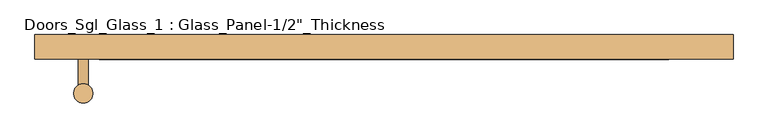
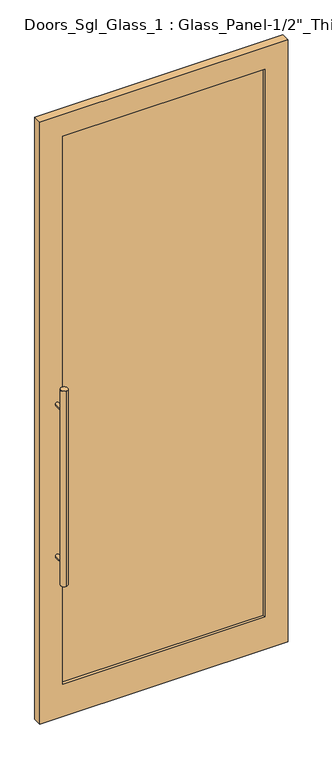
"""IFC4 building model written with IfcOpenShell, lengths in millimetres: door geometry."""

from ifc_helpers import new_model, si_unit, point, frame, frame_2d, origin, place, context, project, spatial, polyline, circle_curve, trimmed, segment, composite_curve, outline, extrude, source, transform, mapped, element, save


def door_567a0bab(model_context):
    return source(origin(), model_context, "Body", "SweptSolid", [
        extrude(outline(composite_curve([segment(trimmed(circle_curve(frame_2d((-466.370352, -116.0)), 15.0), [point((-466.370352, -101.0))], [point((-466.370352, -131.0))], False, "CARTESIAN"), True, "CONTINUOUS"), segment(trimmed(circle_curve(frame_2d((-466.370352, -116.0)), 15.0), [point((-466.370352, -131.0))], [point((-466.370352, -101.0))], False, "CARTESIAN"), True, "CONTINUOUS")], self_intersect=False)), frame((0.0, 0.0, 650.0), z_axis=(0.0, 0.0, 1.0), x_axis=(1.0, 0.0, 0.0)), (0.0, 0.0, 1.0), 900.0),
        extrude(outline(composite_curve([segment(trimmed(circle_curve(frame_2d((1450.0, -466.370352)), 8.0), [point((1450.0, -458.370352))], [point((1450.0, -474.370352))], False, "CARTESIAN"), True, "CONTINUOUS"), segment(trimmed(circle_curve(frame_2d((1450.0, -466.370352)), 8.0), [point((1450.0, -474.370352))], [point((1450.0, -458.370352))], False, "CARTESIAN"), True, "CONTINUOUS")], self_intersect=False)), frame((0.0, -116.0, 0.0), z_axis=(0.0, 1.0, 0.0), x_axis=(0.0, 0.0, 1.0)), (0.0, 0.0, 1.0), 53.0),
        extrude(outline(composite_curve([segment(trimmed(circle_curve(frame_2d((750.0, -466.370352)), 8.0), [point((750.0, -458.370352))], [point((750.0, -474.370352))], False, "CARTESIAN"), True, "CONTINUOUS"), segment(trimmed(circle_curve(frame_2d((750.0, -466.370352)), 8.0), [point((750.0, -474.370352))], [point((750.0, -458.370352))], False, "CARTESIAN"), True, "CONTINUOUS")], self_intersect=False)), frame((0.0, -116.0, 0.0), z_axis=(0.0, 1.0, 0.0), x_axis=(0.0, 0.0, 1.0)), (0.0, 0.0, 1.0), 53.0),
        extrude(outline(polyline([(0.0, -541.370352), (0.0, 541.370352), (2775.0, 541.370352), (2775.0, -541.370352), (0.0, -541.370352)]), holes=[polyline([(2675.0, 441.370352), (150.0, 441.370352), (150.0, -441.370352), (2675.0, -441.370352), (2675.0, 441.370352)])]), frame((0.0, -63.0, 0.0), z_axis=(0.0, 1.0, 0.0), x_axis=(0.0, 0.0, 1.0)), (0.0, 0.0, 1.0), 38.0),
        extrude(outline(polyline([(441.370352, -50.7), (-441.370352, -50.7), (-441.370352, -38.0), (441.370352, -38.0), (441.370352, -50.7)])), frame((0.0, 0.0, 150.0), z_axis=(0.0, 0.0, 1.0), x_axis=(1.0, 0.0, 0.0)), (0.0, 0.0, 1.0), 2525.0),
    ])


if __name__ == "__main__":
    model = new_model("IFC4")
    model_context = context("Model", 3, world=origin())
    ifc_project = project(units=[si_unit("LENGTHUNIT", "METRE", prefix="MILLI")], contexts=[model_context])
    site = spatial("IfcSite", under=ifc_project)
    building = spatial("IfcBuilding", under=site)
    placement = place(None, origin())
    door_shape = door_567a0bab(model_context)
    element("IfcDoor", 1, ObjectType="Doors_Sgl_Glass_1 : Glass_Panel-1/2\"_Thickness", at=placement, inside=building, context=model_context, shape_type="MappedRepresentation", body=[
        mapped(door_shape, transform((0.0, 0.0, 0.0), x_axis=(1.0, 0.0, 0.0), y_axis=(0.0, 1.0, 0.0), z_axis=(0.0, 0.0, 1.0))),
    ])
    save(model, "model.ifc")
